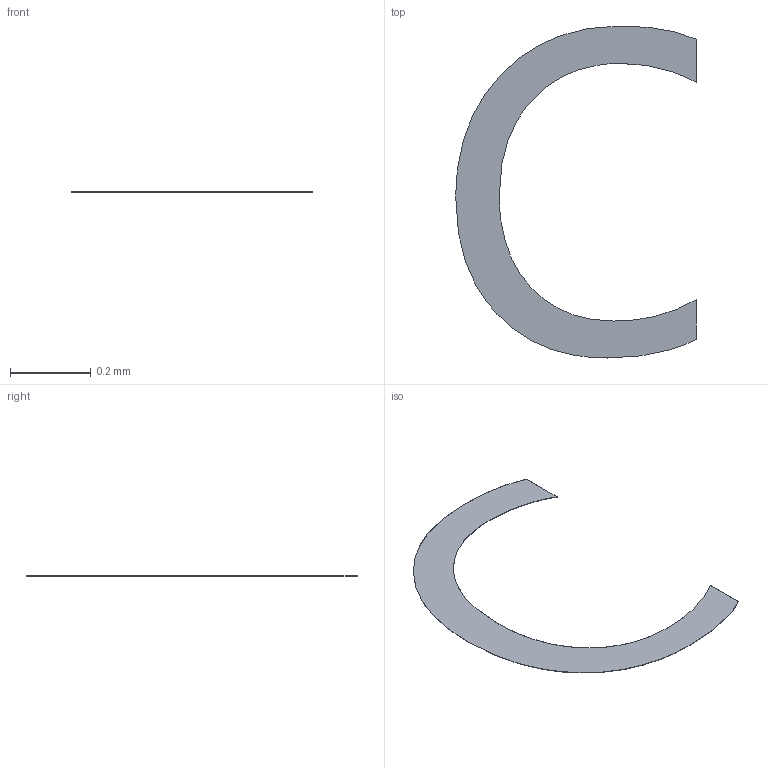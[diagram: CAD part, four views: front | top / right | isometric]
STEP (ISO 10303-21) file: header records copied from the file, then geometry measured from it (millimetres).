
FILE_DESCRIPTION(/* description */ ('STEP AP242 Edition 2','CAx-IF Rec.Pracs.---Representation and Presentation of Product Manufacturing Information (PMI)---4.0---2014-10-13','CAx-IF Rec.Pracs.---3D Tessellated Geometry---0.4---2014-09-14','2;1','CAx-IF Rec.Pracs.---User Defined Attributes---1.5---2016-08-15'),/* implementation_level */ '2;1');
FILE_NAME(/* name */ 'Assembly 1 - I2CLCD16X2~MODULE-TH_LCM1602K~nxQB (3)',/* time_stamp */ '2026-04-02T09:55:14Z',/* author */ (''),/* organization */ (''),/* preprocessor_version */ 'ST-DEVELOPER v20',/* originating_system */ 'ONSHAPE BY PTC INC, 1.212',/* authorisation */ ' ');
FILE_SCHEMA (('AP242_MANAGED_MODEL_BASED_3D_ENGINEERING_MIM_LF { 1 0 10303 442 3 1 4 }'));
Length unit declared in the file: metre
Products named in the file (1): I2CLCD16X2~MODULE-TH_LCM1602K~nxQB
Bounding box: 0.59 x 0.82 x 0 mm (x, y, z)
Volume: 0 mm3; surface area: 0.3 mm2
Topology: 1 solids, 1 shells, 16 faces, 42 edges, 28 vertices
Faces by surface type: bspline 12, plane 4
Entity records: 693 total; most frequent: CARTESIAN_POINT 243, ORIENTED_EDGE 84, EDGE_CURVE 42, VERTEX_POINT 28, DIRECTION 28, B_SPLINE_CURVE_WITH_KNOTS 24, LINE 18, VECTOR 18
